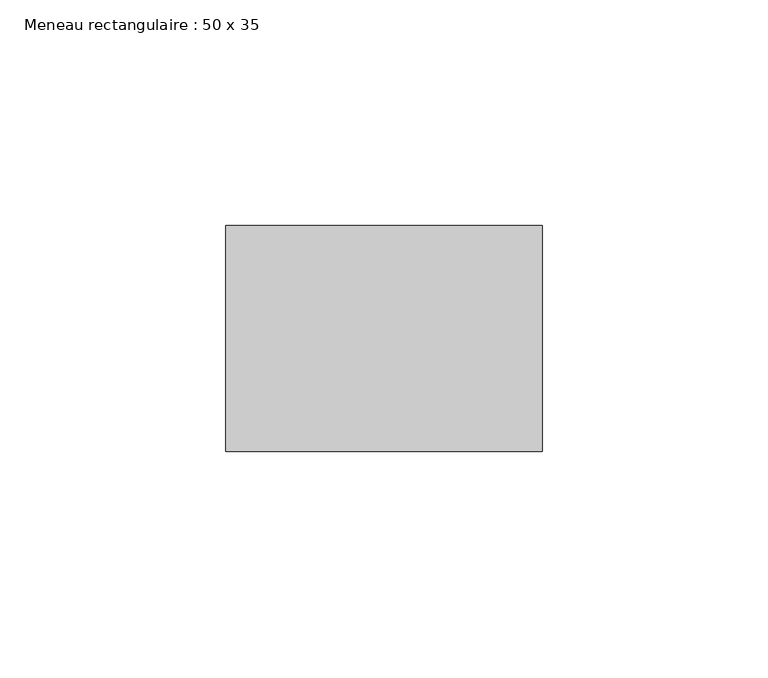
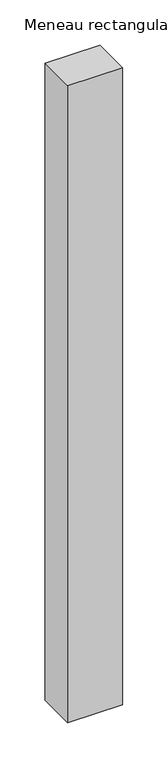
"""IFC4 building model written with IfcOpenShell, lengths in millimetres: member geometry, Meneau rectangulaire : 50 x 35."""

from ifc_helpers import new_model, si_unit, frame, origin, place, context, project, spatial, polyline, outline, extrude, source, transform, mapped, element, save


def meneau_rectangulaire_50_x_35_d7b28d4e(model_context):
    return source(origin(), model_context, "Body", "SweptSolid", [
        extrude(outline(polyline([(0.0, 0.0), (0.0, -50.0), (-70.0, -50.0), (-70.0, 0.0), (0.0, 0.0)])), frame((0.0, 0.0, -858.5255321), z_axis=(0.0, 0.0, 1.0), x_axis=(1.0, 0.0, 0.0)), (0.0, 0.0, 1.0), 858.5255321),
    ])


if __name__ == "__main__":
    model = new_model("IFC4")
    model_context = context("Model", 3, world=origin())
    ifc_project = project(units=[si_unit("LENGTHUNIT", "METRE", prefix="MILLI")], contexts=[model_context])
    site = spatial("IfcSite", under=ifc_project)
    building = spatial("IfcBuilding", under=site)
    placement = place(None, origin())
    meneau_rectangulaire_50_x_35_shape = meneau_rectangulaire_50_x_35_d7b28d4e(model_context)
    element("IfcMember", 1, ObjectType="Meneau rectangulaire : 50 x 35", at=placement, inside=building, context=model_context, shape_type="MappedRepresentation", body=[
        mapped(meneau_rectangulaire_50_x_35_shape, transform((0.0, 0.0, 0.0), x_axis=(1.0, 0.0, 0.0), y_axis=(0.0, 1.0, 0.0), z_axis=(0.0, 0.0, 1.0))),
    ])
    save(model, "model.ifc")
